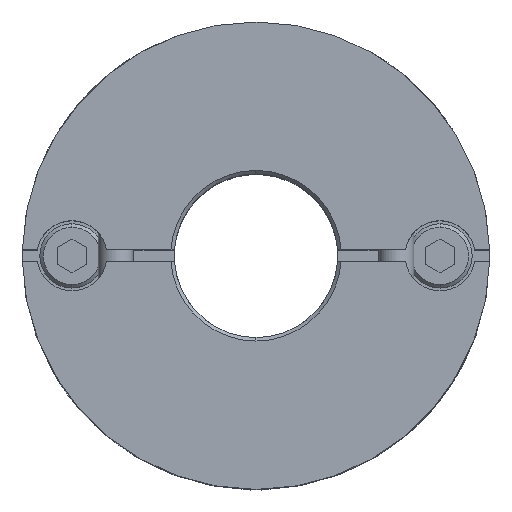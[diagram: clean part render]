
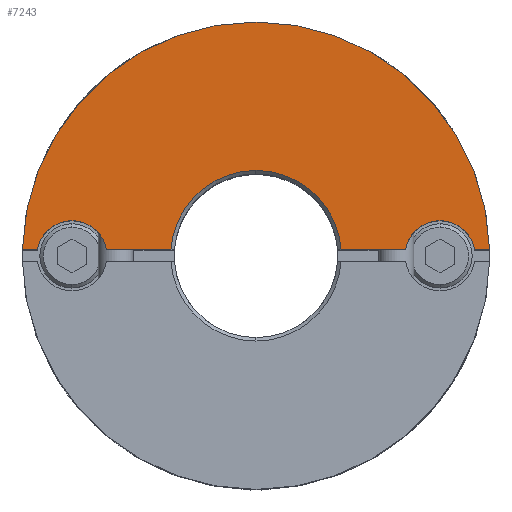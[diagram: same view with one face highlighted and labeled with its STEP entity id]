
A CAD part, top view. The second image highlights one B-rep face of the part: STEP entity #7243.
In plain terms, the highlighted planar face has unit normal (0, 0, 1).
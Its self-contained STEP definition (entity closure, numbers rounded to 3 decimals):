
#605=CARTESIAN_POINT('',(0.,20.0,15.6));
#606=VERTEX_POINT('',#605);
#690=CARTESIAN_POINT('',(-19.994,0.5,15.6));
#691=VERTEX_POINT('',#690);
#698=CARTESIAN_POINT('',(0.,0.0,15.6));
#699=DIRECTION('',(0.0,0.0,-1.0));
#700=DIRECTION('',(0.0,1.0,0.0));
#701=AXIS2_PLACEMENT_3D('',#698,#699,#700);
#702=CIRCLE('',#701,20.0);
#703=EDGE_CURVE('',#691,#606,#702,.T.);
#993=CARTESIAN_POINT('',(0.,7.3,15.6));
#994=VERTEX_POINT('',#993);
#1001=CARTESIAN_POINT('',(-7.283,0.5,15.6));
#1002=VERTEX_POINT('',#1001);
#1003=CARTESIAN_POINT('',(0.,0.,15.6));
#1004=DIRECTION('',(0.0,0.0,1.0));
#1005=DIRECTION('',(0.0,-1.0,0.0));
#1006=AXIS2_PLACEMENT_3D('',#1003,#1004,#1005);
#1007=CIRCLE('',#1006,7.3);
#1008=EDGE_CURVE('',#994,#1002,#1007,.T.);
#1309=CARTESIAN_POINT('',(-15.75,3.,15.6));
#1310=VERTEX_POINT('',#1309);
#1319=CARTESIAN_POINT('',(-18.708,0.5,15.6));
#1320=VERTEX_POINT('',#1319);
#1321=CARTESIAN_POINT('',(-15.75,0.,15.6));
#1322=DIRECTION('',(0.0,0.0,-1.0));
#1323=DIRECTION('',(0.0,1.0,0.0));
#1324=AXIS2_PLACEMENT_3D('',#1321,#1322,#1323);
#1325=CIRCLE('',#1324,3.0);
#1326=EDGE_CURVE('',#1320,#1310,#1325,.T.);
#1579=CARTESIAN_POINT('',(15.75,3.,15.6));
#1580=VERTEX_POINT('',#1579);
#1589=CARTESIAN_POINT('',(12.792,0.5,15.6));
#1590=VERTEX_POINT('',#1589);
#1591=CARTESIAN_POINT('',(15.75,0.,15.6));
#1592=DIRECTION('',(0.0,0.0,-1.0));
#1593=DIRECTION('',(0.0,1.0,0.0));
#1594=AXIS2_PLACEMENT_3D('',#1591,#1592,#1593);
#1595=CIRCLE('',#1594,3.0);
#1596=EDGE_CURVE('',#1590,#1580,#1595,.T.);
#5954=CARTESIAN_POINT('',(18.708,0.5,15.6));
#5955=VERTEX_POINT('',#5954);
#5962=CARTESIAN_POINT('',(15.75,0.,15.6));
#5963=DIRECTION('',(0.0,0.0,-1.0));
#5964=DIRECTION('',(0.0,1.0,0.0));
#5965=AXIS2_PLACEMENT_3D('',#5962,#5963,#5964);
#5966=CIRCLE('',#5965,3.0);
#5967=EDGE_CURVE('',#1580,#5955,#5966,.T.);
#6406=CARTESIAN_POINT('',(-12.792,0.5,15.6));
#6407=VERTEX_POINT('',#6406);
#6414=CARTESIAN_POINT('',(-15.75,0.,15.6));
#6415=DIRECTION('',(0.0,0.0,-1.0));
#6416=DIRECTION('',(0.0,1.0,0.0));
#6417=AXIS2_PLACEMENT_3D('',#6414,#6415,#6416);
#6418=CIRCLE('',#6417,3.0);
#6419=EDGE_CURVE('',#1310,#6407,#6418,.T.);
#6512=CARTESIAN_POINT('',(-12.792,0.5,15.6));
#6513=DIRECTION('',(1.0,0.0,0.0));
#6514=VECTOR('',#6513,5.509);
#6515=LINE('',#6512,#6514);
#6516=EDGE_CURVE('',#6407,#1002,#6515,.T.);
#6579=CARTESIAN_POINT('',(7.283,0.5,15.6));
#6580=VERTEX_POINT('',#6579);
#6581=CARTESIAN_POINT('',(7.283,0.5,15.6));
#6582=DIRECTION('',(1.0,0.0,0.0));
#6583=VECTOR('',#6582,5.509);
#6584=LINE('',#6581,#6583);
#6585=EDGE_CURVE('',#6580,#1590,#6584,.T.);
#7146=CARTESIAN_POINT('',(-19.994,0.5,15.6));
#7147=DIRECTION('',(1.0,0.0,0.0));
#7148=VECTOR('',#7147,1.286);
#7149=LINE('',#7146,#7148);
#7150=EDGE_CURVE('',#691,#1320,#7149,.T.);
#7205=CARTESIAN_POINT('',(0.,1.818,15.6));
#7206=DIRECTION('',(0.0,0.0,1.0));
#7207=DIRECTION('',(0.0,1.0,0.0));
#7208=AXIS2_PLACEMENT_3D('',#7205,#7206,#7207);
#7209=PLANE('',#7208);
#7210=ORIENTED_EDGE('',*,*,#1326,.T.);
#7211=ORIENTED_EDGE('',*,*,#6419,.T.);
#7212=ORIENTED_EDGE('',*,*,#6516,.T.);
#7213=ORIENTED_EDGE('',*,*,#1008,.F.);
#7214=CARTESIAN_POINT('',(0.,0.,15.6));
#7215=DIRECTION('',(0.0,0.0,1.0));
#7216=DIRECTION('',(0.0,-1.0,0.0));
#7217=AXIS2_PLACEMENT_3D('',#7214,#7215,#7216);
#7218=CIRCLE('',#7217,7.3);
#7219=EDGE_CURVE('',#6580,#994,#7218,.T.);
#7220=ORIENTED_EDGE('',*,*,#7219,.F.);
#7221=ORIENTED_EDGE('',*,*,#6585,.T.);
#7222=ORIENTED_EDGE('',*,*,#1596,.T.);
#7223=ORIENTED_EDGE('',*,*,#5967,.T.);
#7224=CARTESIAN_POINT('',(19.994,0.5,15.6));
#7225=VERTEX_POINT('',#7224);
#7226=CARTESIAN_POINT('',(18.708,0.5,15.6));
#7227=DIRECTION('',(1.0,0.0,0.0));
#7228=VECTOR('',#7227,1.286);
#7229=LINE('',#7226,#7228);
#7230=EDGE_CURVE('',#5955,#7225,#7229,.T.);
#7231=ORIENTED_EDGE('',*,*,#7230,.T.);
#7232=CARTESIAN_POINT('',(0.,0.0,15.6));
#7233=DIRECTION('',(0.0,0.0,-1.0));
#7234=DIRECTION('',(0.0,1.0,0.0));
#7235=AXIS2_PLACEMENT_3D('',#7232,#7233,#7234);
#7236=CIRCLE('',#7235,20.0);
#7237=EDGE_CURVE('',#606,#7225,#7236,.T.);
#7238=ORIENTED_EDGE('',*,*,#7237,.F.);
#7239=ORIENTED_EDGE('',*,*,#703,.F.);
#7240=ORIENTED_EDGE('',*,*,#7150,.T.);
#7241=EDGE_LOOP('',(#7210,#7211,#7212,#7213,#7220,#7221,#7222,#7223,#7231,#7238,#7239,#7240));
#7242=FACE_OUTER_BOUND('',#7241,.T.);
#7243=ADVANCED_FACE('',(#7242),#7209,.T.);
